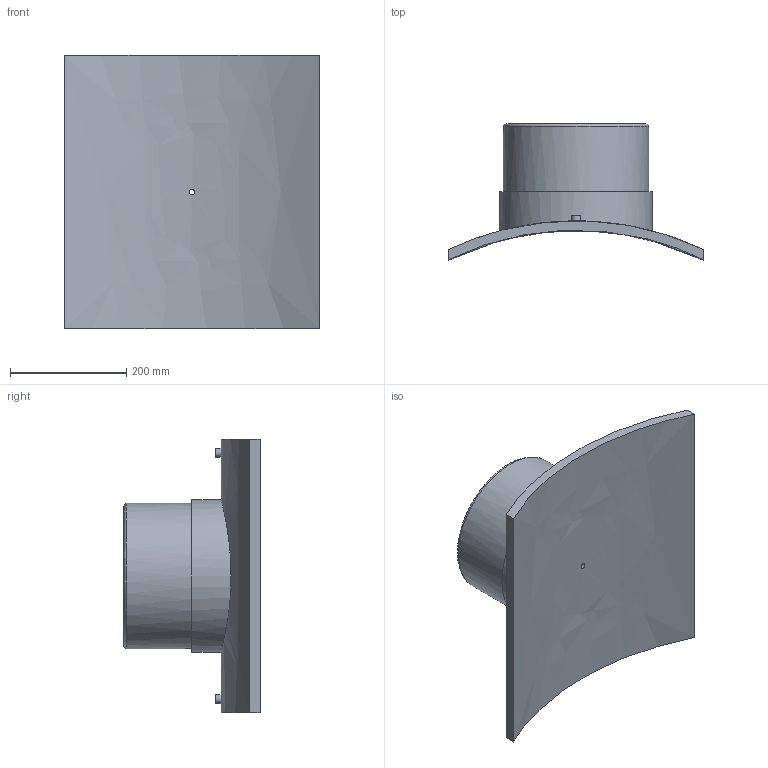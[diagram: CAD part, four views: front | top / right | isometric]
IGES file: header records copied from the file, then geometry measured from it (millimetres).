
Global section: file name: 4958031000250T; native system: Autodesk Inventor 2019; preprocessor: unknown; author: KIM; date: 20240404.114754; units: millimetre
Bounding box: 440 x 234 x 470 mm (x, y, z)
Volume: 6779947.6 mm3; surface area: 712788.6 mm2
Topology: 1 solids, 1 shells, 29 faces, 60 edges, 43 vertices
Faces by surface type: bspline 29
